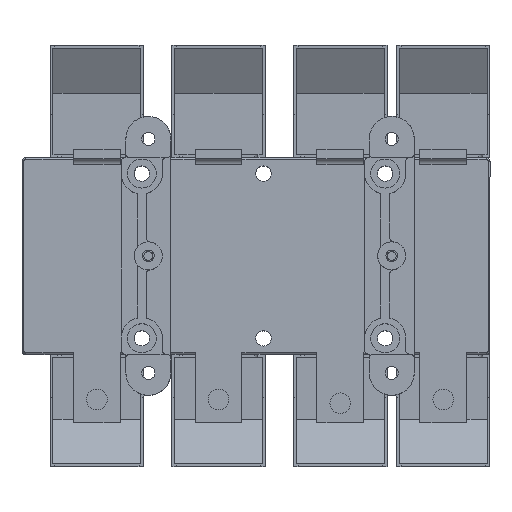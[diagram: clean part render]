
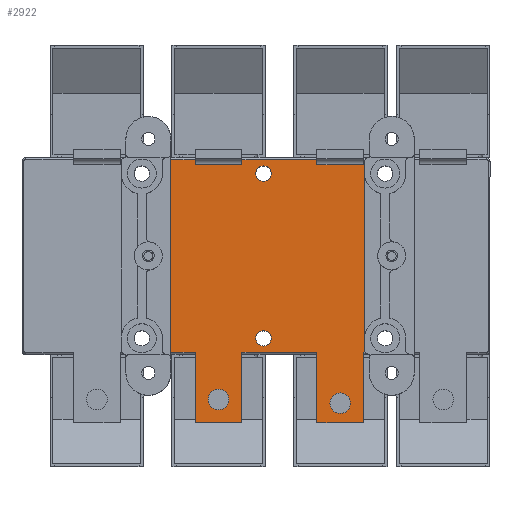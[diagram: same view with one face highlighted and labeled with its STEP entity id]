
A CAD part, top view. The second image highlights one B-rep face of the part: STEP entity #2922.
In plain terms, the highlighted planar face has unit normal (0, 0, 1).
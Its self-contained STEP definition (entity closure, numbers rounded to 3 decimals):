
#77=PLANE('',#9691);
#978=LINE('',#13502,#2015);
#981=LINE('',#13508,#2018);
#982=LINE('',#13529,#2019);
#985=LINE('',#13539,#2022);
#986=LINE('',#13560,#2023);
#995=LINE('',#13580,#2032);
#1000=LINE('',#13596,#2037);
#1001=LINE('',#13599,#2038);
#1002=LINE('',#13600,#2039);
#1003=LINE('',#13602,#2040);
#1004=LINE('',#13604,#2041);
#1005=LINE('',#13605,#2042);
#1006=LINE('',#13606,#2043);
#1007=LINE('',#13608,#2044);
#1008=LINE('',#13610,#2045);
#1009=LINE('',#13611,#2046);
#1010=LINE('',#13613,#2047);
#1011=LINE('',#13615,#2048);
#1012=LINE('',#13618,#2049);
#1013=LINE('',#13621,#2050);
#2015=VECTOR('',#10719,1.);
#2018=VECTOR('',#10726,1.);
#2019=VECTOR('',#10731,1.);
#2022=VECTOR('',#10742,1.);
#2023=VECTOR('',#10747,1.);
#2032=VECTOR('',#10764,1.);
#2037=VECTOR('',#10783,1.);
#2038=VECTOR('',#10784,1.);
#2039=VECTOR('',#10785,1.);
#2040=VECTOR('',#10786,1.);
#2041=VECTOR('',#10787,1.);
#2042=VECTOR('',#10788,1.);
#2043=VECTOR('',#10789,1.);
#2044=VECTOR('',#10790,1.);
#2045=VECTOR('',#10791,1.);
#2046=VECTOR('',#10792,1.);
#2047=VECTOR('',#10793,1.);
#2048=VECTOR('',#10794,1.);
#2049=VECTOR('',#10797,1.);
#2050=VECTOR('',#10800,1.);
#2922=ADVANCED_FACE('',(#3527,#3528,#3529,#3530,#3531),#77,.F.);
#3527=FACE_BOUND('',#3704,.T.);
#3528=FACE_BOUND('',#3705,.T.);
#3529=FACE_BOUND('',#3706,.T.);
#3530=FACE_BOUND('',#3707,.T.);
#3531=FACE_BOUND('',#3708,.T.);
#3704=EDGE_LOOP('',(#4527,#4528,#4529,#4530,#4531,#4532,#4533,#4534,#4535,
#4536,#4537,#4538,#4539,#4540,#4541,#4542,#4543,#4544,#4545,#4546,#4547,
#4548));
#3705=EDGE_LOOP('',(#4549));
#3706=EDGE_LOOP('',(#4550));
#3707=EDGE_LOOP('',(#4551));
#3708=EDGE_LOOP('',(#4552));
#4527=ORIENTED_EDGE('',*,*,#8131,.F.);
#4528=ORIENTED_EDGE('',*,*,#8132,.T.);
#4529=ORIENTED_EDGE('',*,*,#8101,.T.);
#4530=ORIENTED_EDGE('',*,*,#8133,.F.);
#4531=ORIENTED_EDGE('',*,*,#8134,.F.);
#4532=ORIENTED_EDGE('',*,*,#8135,.F.);
#4533=ORIENTED_EDGE('',*,*,#8122,.T.);
#4534=ORIENTED_EDGE('',*,*,#8136,.F.);
#4535=ORIENTED_EDGE('',*,*,#8110,.T.);
#4536=ORIENTED_EDGE('',*,*,#8137,.F.);
#4537=ORIENTED_EDGE('',*,*,#8138,.F.);
#4538=ORIENTED_EDGE('',*,*,#8139,.F.);
#4539=ORIENTED_EDGE('',*,*,#8094,.T.);
#4540=ORIENTED_EDGE('',*,*,#8140,.T.);
#4541=ORIENTED_EDGE('',*,*,#8141,.T.);
#4542=ORIENTED_EDGE('',*,*,#8142,.T.);
#4543=ORIENTED_EDGE('',*,*,#8098,.T.);
#4544=ORIENTED_EDGE('',*,*,#8143,.T.);
#4545=ORIENTED_EDGE('',*,*,#8144,.T.);
#4546=ORIENTED_EDGE('',*,*,#8145,.T.);
#4547=ORIENTED_EDGE('',*,*,#8107,.T.);
#4548=ORIENTED_EDGE('',*,*,#8146,.T.);
#4549=ORIENTED_EDGE('',*,*,#8147,.F.);
#4550=ORIENTED_EDGE('',*,*,#8148,.F.);
#4551=ORIENTED_EDGE('',*,*,#7879,.F.);
#4552=ORIENTED_EDGE('',*,*,#7877,.F.);
#6973=VERTEX_POINT('',#13061);
#6975=VERTEX_POINT('',#13066);
#7173=VERTEX_POINT('',#13501);
#7174=VERTEX_POINT('',#13503);
#7175=VERTEX_POINT('',#13509);
#7176=VERTEX_POINT('',#13510);
#7177=VERTEX_POINT('',#13530);
#7178=VERTEX_POINT('',#13531);
#7179=VERTEX_POINT('',#13538);
#7180=VERTEX_POINT('',#13540);
#7181=VERTEX_POINT('',#13559);
#7182=VERTEX_POINT('',#13561);
#7185=VERTEX_POINT('',#13571);
#7188=VERTEX_POINT('',#13579);
#7193=VERTEX_POINT('',#13597);
#7194=VERTEX_POINT('',#13598);
#7195=VERTEX_POINT('',#13601);
#7196=VERTEX_POINT('',#13603);
#7197=VERTEX_POINT('',#13607);
#7198=VERTEX_POINT('',#13609);
#7199=VERTEX_POINT('',#13612);
#7200=VERTEX_POINT('',#13614);
#7201=VERTEX_POINT('',#13617);
#7202=VERTEX_POINT('',#13619);
#7203=VERTEX_POINT('',#13623);
#7204=VERTEX_POINT('',#13625);
#7877=EDGE_CURVE('',#6973,#6973,#9244,.T.);
#7879=EDGE_CURVE('',#6975,#6975,#9246,.T.);
#8094=EDGE_CURVE('',#7174,#7173,#978,.T.);
#8098=EDGE_CURVE('',#7175,#7176,#981,.T.);
#8101=EDGE_CURVE('',#7177,#7178,#982,.T.);
#8107=EDGE_CURVE('',#7180,#7179,#985,.T.);
#8110=EDGE_CURVE('',#7182,#7181,#986,.T.);
#8122=EDGE_CURVE('',#7185,#7188,#995,.T.);
#8131=EDGE_CURVE('',#7193,#7194,#1000,.T.);
#8132=EDGE_CURVE('',#7193,#7177,#1001,.T.);
#8133=EDGE_CURVE('',#7195,#7178,#1002,.T.);
#8134=EDGE_CURVE('',#7196,#7195,#1003,.T.);
#8135=EDGE_CURVE('',#7185,#7196,#1004,.T.);
#8136=EDGE_CURVE('',#7182,#7188,#1005,.T.);
#8137=EDGE_CURVE('',#7197,#7181,#1006,.T.);
#8138=EDGE_CURVE('',#7198,#7197,#1007,.T.);
#8139=EDGE_CURVE('',#7174,#7198,#1008,.T.);
#8140=EDGE_CURVE('',#7173,#7199,#1009,.T.);
#8141=EDGE_CURVE('',#7199,#7200,#1010,.T.);
#8142=EDGE_CURVE('',#7200,#7175,#1011,.T.);
#8143=EDGE_CURVE('',#7176,#7201,#9312,.T.);
#8144=EDGE_CURVE('',#7201,#7202,#1012,.T.);
#8145=EDGE_CURVE('',#7202,#7180,#9313,.T.);
#8146=EDGE_CURVE('',#7179,#7194,#1013,.T.);
#8147=EDGE_CURVE('',#7203,#7203,#9314,.T.);
#8148=EDGE_CURVE('',#7204,#7204,#9315,.T.);
#9244=CIRCLE('',#9587,4.1);
#9246=CIRCLE('',#9590,4.1);
#9312=CIRCLE('',#9687,2.);
#9313=CIRCLE('',#9688,2.);
#9314=CIRCLE('',#9689,5.5);
#9315=CIRCLE('',#9690,5.5);
#9587=AXIS2_PLACEMENT_3D('',#13060,#10399,#10400);
#9590=AXIS2_PLACEMENT_3D('',#13065,#10405,#10406);
#9687=AXIS2_PLACEMENT_3D('',#13616,#10795,#10796);
#9688=AXIS2_PLACEMENT_3D('',#13620,#10798,#10799);
#9689=AXIS2_PLACEMENT_3D('',#13622,#10801,#10802);
#9690=AXIS2_PLACEMENT_3D('',#13624,#10803,#10804);
#9691=AXIS2_PLACEMENT_3D('',#13626,#10805,#10806);
#10399=DIRECTION('',(0.,0.,1.));
#10400=DIRECTION('',(-1.,0.,0.));
#10405=DIRECTION('',(0.,0.,1.));
#10406=DIRECTION('',(-1.,0.,0.));
#10719=DIRECTION('',(1.,0.,0.));
#10726=DIRECTION('',(1.,0.,0.));
#10731=DIRECTION('',(-1.,0.,0.));
#10742=DIRECTION('',(-1.,0.,0.));
#10747=DIRECTION('',(1.,0.,0.));
#10764=DIRECTION('',(-1.,0.,0.));
#10783=DIRECTION('',(1.,0.,0.));
#10784=DIRECTION('',(0.,1.,0.));
#10785=DIRECTION('',(0.,1.,0.));
#10786=DIRECTION('',(1.,0.,0.));
#10787=DIRECTION('',(0.,-1.,0.));
#10788=DIRECTION('',(0.,1.,0.));
#10789=DIRECTION('',(0.,1.,0.));
#10790=DIRECTION('',(-1.,0.,0.));
#10791=DIRECTION('',(0.,-1.,0.));
#10792=DIRECTION('',(0.,-1.,0.));
#10793=DIRECTION('',(1.,0.,0.));
#10794=DIRECTION('',(0.,1.,0.));
#10795=DIRECTION('',(0.,0.,-1.));
#10796=DIRECTION('',(-1.,0.,0.));
#10797=DIRECTION('',(0.,1.,0.));
#10798=DIRECTION('',(0.,0.,-1.));
#10799=DIRECTION('',(-1.,0.,0.));
#10800=DIRECTION('',(0.,-1.,0.));
#10801=DIRECTION('',(0.,0.,1.));
#10802=DIRECTION('',(-1.,0.,0.));
#10803=DIRECTION('',(0.,0.,1.));
#10804=DIRECTION('',(-1.,0.,0.));
#10805=DIRECTION('',(0.,0.,-1.));
#10806=DIRECTION('',(-1.,0.,0.));
#13060=CARTESIAN_POINT('',(-68.5,-44.,0.));
#13061=CARTESIAN_POINT('',(-72.6,-44.,0.));
#13065=CARTESIAN_POINT('',(-68.5,44.,0.));
#13066=CARTESIAN_POINT('',(-72.6,44.,0.));
#13501=CARTESIAN_POINT('',(-40.,-51.5,0.));
#13502=CARTESIAN_POINT('',(-12.5,-51.5,0.));
#13503=CARTESIAN_POINT('',(-80.,-51.5,0.));
#13508=CARTESIAN_POINT('',(-12.5,-51.5,0.));
#13509=CARTESIAN_POINT('',(-15.,-51.5,0.));
#13510=CARTESIAN_POINT('',(-14.232,-51.5,0.));
#13529=CARTESIAN_POINT('',(-195.5,51.5,0.));
#13530=CARTESIAN_POINT('',(-40.,51.5,0.));
#13531=CARTESIAN_POINT('',(-80.,51.5,0.));
#13538=CARTESIAN_POINT('',(-15.,51.5,0.));
#13539=CARTESIAN_POINT('',(-195.5,51.5,0.));
#13540=CARTESIAN_POINT('',(-14.232,51.5,0.));
#13559=CARTESIAN_POINT('',(-105.,-51.5,0.));
#13560=CARTESIAN_POINT('',(-12.5,-51.5,0.));
#13561=CARTESIAN_POINT('',(-118.,-51.5,0.));
#13571=CARTESIAN_POINT('',(-105.,51.5,0.));
#13579=CARTESIAN_POINT('',(-118.,51.5,0.));
#13580=CARTESIAN_POINT('',(-195.5,51.5,0.));
#13596=CARTESIAN_POINT('',(-40.,48.848,0.));
#13597=CARTESIAN_POINT('',(-40.,48.848,0.));
#13598=CARTESIAN_POINT('',(-15.,48.848,0.));
#13599=CARTESIAN_POINT('',(-40.,-50.5,0.));
#13600=CARTESIAN_POINT('',(-80.,-50.5,0.));
#13601=CARTESIAN_POINT('',(-80.,48.848,0.));
#13602=CARTESIAN_POINT('',(-105.,48.848,0.));
#13603=CARTESIAN_POINT('',(-105.,48.848,0.));
#13604=CARTESIAN_POINT('',(-105.,-50.5,0.));
#13605=CARTESIAN_POINT('',(-118.,62.5,0.));
#13606=CARTESIAN_POINT('',(-105.,-87.,0.));
#13607=CARTESIAN_POINT('',(-105.,-89.152,0.));
#13608=CARTESIAN_POINT('',(-80.,-89.152,0.));
#13609=CARTESIAN_POINT('',(-80.,-89.152,0.));
#13610=CARTESIAN_POINT('',(-80.,87.,0.));
#13611=CARTESIAN_POINT('',(-40.,87.,0.));
#13612=CARTESIAN_POINT('',(-40.,-89.152,0.));
#13613=CARTESIAN_POINT('',(-40.,-89.152,0.));
#13614=CARTESIAN_POINT('',(-15.,-89.152,0.));
#13615=CARTESIAN_POINT('',(-15.,-87.,0.));
#13616=CARTESIAN_POINT('',(-12.5,-50.5,0.));
#13617=CARTESIAN_POINT('',(-14.5,-50.5,0.));
#13618=CARTESIAN_POINT('',(-14.5,62.5,0.));
#13619=CARTESIAN_POINT('',(-14.5,50.5,0.));
#13620=CARTESIAN_POINT('',(-12.5,50.5,0.));
#13621=CARTESIAN_POINT('',(-15.,-50.5,0.));
#13622=CARTESIAN_POINT('',(-92.5,-76.652,0.));
#13623=CARTESIAN_POINT('',(-98.,-76.652,0.));
#13624=CARTESIAN_POINT('',(-27.5,-78.652,0.));
#13625=CARTESIAN_POINT('',(-33.,-78.652,0.));
#13626=CARTESIAN_POINT('',(50.5,-50.5,0.));
